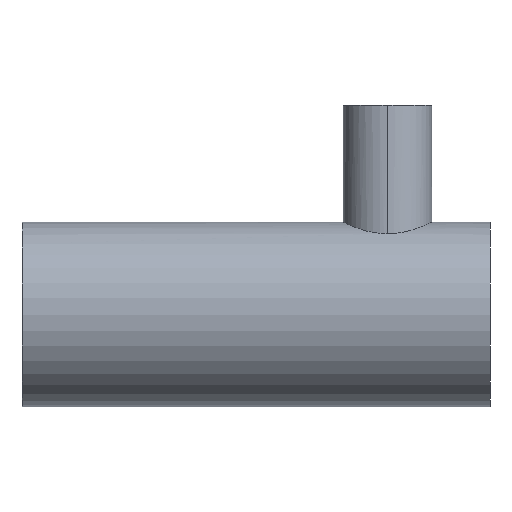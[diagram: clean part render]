
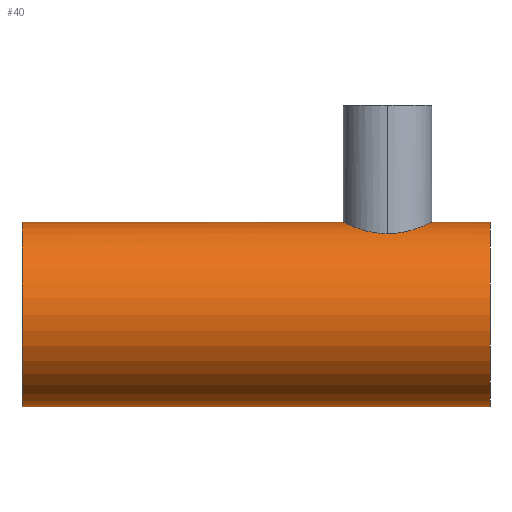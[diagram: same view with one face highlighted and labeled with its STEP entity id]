
A CAD part, left-side view. The second image highlights one B-rep face of the part: STEP entity #40.
In plain terms, the highlighted cylindrical face has radius 5.004 mm (diameter 10.008 mm), a partial arc.
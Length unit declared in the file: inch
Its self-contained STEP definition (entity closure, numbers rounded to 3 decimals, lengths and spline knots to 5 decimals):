
#1 = ORIENTED_EDGE ( 'NONE', *, *, #25, .F. ) ;
#2 = ORIENTED_EDGE ( 'NONE', *, *, #5, .T. ) ;
#3 = EDGE_CURVE ( 'NONE', #24, #51, #86, .T. ) ;
#4 = ORIENTED_EDGE ( 'NONE', *, *, #3, .F. ) ;
#5 = EDGE_CURVE ( 'NONE', #43, #48, #83, .T. ) ;
#7 = ORIENTED_EDGE ( 'NONE', *, *, #47, .F. ) ;
#9 = ORIENTED_EDGE ( 'NONE', *, *, #39, .T. ) ;
#24 = VERTEX_POINT ( 'NONE', #212 ) ;
#25 = EDGE_CURVE ( 'NONE', #255, #24, #206, .T. ) ;
#35 = EDGE_CURVE ( 'NONE', #87, #250, #178, .T. ) ;
#36 = ORIENTED_EDGE ( 'NONE', *, *, #35, .F. ) ;
#37 = ORIENTED_EDGE ( 'NONE', *, *, #52, .F. ) ;
#38 = EDGE_LOOP ( 'NONE', ( #37, #36, #9, #2, #7, #4, #1 ) ) ;
#39 = EDGE_CURVE ( 'NONE', #87, #43, #234, .T. ) ;
#40 = ADVANCED_FACE ( 'NONE', ( #230 ), #228, .T. ) ;
#43 = VERTEX_POINT ( 'NONE', #219 ) ;
#47 = EDGE_CURVE ( 'NONE', #51, #48, #140, .T. ) ;
#48 = VERTEX_POINT ( 'NONE', #136 ) ;
#51 = VERTEX_POINT ( 'NONE', #133 ) ;
#52 = EDGE_CURVE ( 'NONE', #250, #255, #135, .T. ) ;
#64 = CARTESIAN_POINT ( 'NONE',  ( 0., 0.124, 0.197 ) ) ;
#65 = CARTESIAN_POINT ( 'NONE',  ( -0.00632, 0.124, 0.197 ) ) ;
#66 = CARTESIAN_POINT ( 'NONE',  ( -0.01256, 0.12462, 0.1967 ) ) ;
#67 = CARTESIAN_POINT ( 'NONE',  ( -0.02489, 0.1271, 0.19552 ) ) ;
#68 = CARTESIAN_POINT ( 'NONE',  ( -0.03098, 0.12898, 0.19463 ) ) ;
#69 = CARTESIAN_POINT ( 'NONE',  ( -0.04241, 0.13377, 0.19247 ) ) ;
#70 = CARTESIAN_POINT ( 'NONE',  ( -0.04782, 0.13668, 0.19118 ) ) ;
#71 = CARTESIAN_POINT ( 'NONE',  ( -0.05809, 0.14358, 0.18832 ) ) ;
#72 = CARTESIAN_POINT ( 'NONE',  ( -0.06286, 0.14751, 0.18676 ) ) ;
#73 = CARTESIAN_POINT ( 'NONE',  ( -0.0758, 0.16045, 0.18206 ) ) ;
#74 = CARTESIAN_POINT ( 'NONE',  ( -0.08282, 0.17083, 0.17883 ) ) ;
#75 = CARTESIAN_POINT ( 'NONE',  ( -0.09001, 0.188, 0.17525 ) ) ;
#76 = CARTESIAN_POINT ( 'NONE',  ( -0.09189, 0.19408, 0.17426 ) ) ;
#77 = CARTESIAN_POINT ( 'NONE',  ( -0.09436, 0.20635, 0.17294 ) ) ;
#78 = CARTESIAN_POINT ( 'NONE',  ( -0.095, 0.21261, 0.17258 ) ) ;
#79 = CARTESIAN_POINT ( 'NONE',  ( -0.095, 0.219, 0.17258 ) ) ;
#80 = DIRECTION ( 'NONE',  ( 0., 0., 1. ) ) ;
#81 = DIRECTION ( 'NONE',  ( 0., 1., 0. ) ) ;
#82 = AXIS2_PLACEMENT_3D ( 'NONE', #85, #81, #80 ) ;
#83 = CIRCLE ( 'NONE', #82, 0.197 ) ;
#85 = CARTESIAN_POINT ( 'NONE',  ( 0., 0., 0. ) ) ;
#86 = B_SPLINE_CURVE_WITH_KNOTS ( 'NONE', 3,
 ( #79, #78, #77, #76, #75, #74, #73, #72, #71, #70, #69, #68, #67, #66, #65, #64 ),
 .UNSPECIFIED., .F., .F.,
 ( 4, 2, 2, 2, 2, 2, 2, 4 ),
 ( 0., 0.00048, 0.00096, 0.00192, 0.0024, 0.00288, 0.00335, 0.00383 ),
 .UNSPECIFIED. ) ;
#87 = VERTEX_POINT ( 'NONE', #129 ) ;
#92 = CARTESIAN_POINT ( 'NONE',  ( 0., 0.314, 0.197 ) ) ;
#108 = CARTESIAN_POINT ( 'NONE',  ( 0., 1., 0.197 ) ) ;
#129 = CARTESIAN_POINT ( 'NONE',  ( 0., 1., -0.197 ) ) ;
#130 = DIRECTION ( 'NONE',  ( 0., -1., 0. ) ) ;
#131 = VECTOR ( 'NONE', #130, 39.37008 ) ;
#132 = CARTESIAN_POINT ( 'NONE',  ( 0., 1., 0.197 ) ) ;
#133 = CARTESIAN_POINT ( 'NONE',  ( 0., 0.124, 0.197 ) ) ;
#135 = LINE ( 'NONE', #132, #131 ) ;
#136 = CARTESIAN_POINT ( 'NONE',  ( 0., 0., 0.197 ) ) ;
#137 = DIRECTION ( 'NONE',  ( 0., -1., 0. ) ) ;
#138 = VECTOR ( 'NONE', #137, 39.37008 ) ;
#139 = CARTESIAN_POINT ( 'NONE',  ( 0., 1., 0.197 ) ) ;
#140 = LINE ( 'NONE', #139, #138 ) ;
#178 = CIRCLE ( 'NONE', #238, 0.197 ) ;
#186 = CARTESIAN_POINT ( 'NONE',  ( -0.095, 0.219, 0.17258 ) ) ;
#187 = CARTESIAN_POINT ( 'NONE',  ( -0.095, 0.22537, 0.17258 ) ) ;
#188 = CARTESIAN_POINT ( 'NONE',  ( -0.09434, 0.23178, 0.17295 ) ) ;
#189 = CARTESIAN_POINT ( 'NONE',  ( -0.09185, 0.24404, 0.17428 ) ) ;
#190 = CARTESIAN_POINT ( 'NONE',  ( -0.09003, 0.24996, 0.17525 ) ) ;
#191 = CARTESIAN_POINT ( 'NONE',  ( -0.08524, 0.26139, 0.17762 ) ) ;
#192 = CARTESIAN_POINT ( 'NONE',  ( -0.08227, 0.2669, 0.17904 ) ) ;
#193 = CARTESIAN_POINT ( 'NONE',  ( -0.07545, 0.27704, 0.18202 ) ) ;
#194 = CARTESIAN_POINT ( 'NONE',  ( -0.07159, 0.28175, 0.18359 ) ) ;
#195 = CARTESIAN_POINT ( 'NONE',  ( -0.06289, 0.29047, 0.18675 ) ) ;
#196 = CARTESIAN_POINT ( 'NONE',  ( -0.05814, 0.29438, 0.1883 ) ) ;
#197 = CARTESIAN_POINT ( 'NONE',  ( -0.04796, 0.30123, 0.19115 ) ) ;
#198 = CARTESIAN_POINT ( 'NONE',  ( -0.04245, 0.30422, 0.19246 ) ) ;
#199 = CARTESIAN_POINT ( 'NONE',  ( -0.03096, 0.30903, 0.19464 ) ) ;
#200 = CARTESIAN_POINT ( 'NONE',  ( -0.025, 0.31087, 0.19551 ) ) ;
#201 = CARTESIAN_POINT ( 'NONE',  ( -0.01263, 0.31337, 0.19669 ) ) ;
#202 = CARTESIAN_POINT ( 'NONE',  ( -0.00628, 0.314, 0.197 ) ) ;
#205 = CARTESIAN_POINT ( 'NONE',  ( 0., 0.314, 0.197 ) ) ;
#206 = B_SPLINE_CURVE_WITH_KNOTS ( 'NONE', 3,
 ( #205, #202, #201, #200, #199, #198, #197, #196, #195, #194, #193, #192, #191, #190, #189, #188, #187, #186 ),
 .UNSPECIFIED., .F., .F.,
 ( 4, 2, 2, 2, 2, 2, 2, 2, 4 ),
 ( 0.01149, 0.01197, 0.01245, 0.01293, 0.01341, 0.01388, 0.01436, 0.01484, 0.01532 ),
 .UNSPECIFIED. ) ;
#212 = CARTESIAN_POINT ( 'NONE',  ( -0.095, 0.219, 0.17258 ) ) ;
#219 = CARTESIAN_POINT ( 'NONE',  ( 0., 0., -0.197 ) ) ;
#224 = DIRECTION ( 'NONE',  ( 0., 0., -1. ) ) ;
#225 = DIRECTION ( 'NONE',  ( 0., -1., 0. ) ) ;
#226 = CARTESIAN_POINT ( 'NONE',  ( 0., 1., 0. ) ) ;
#227 = AXIS2_PLACEMENT_3D ( 'NONE', #226, #225, #224 ) ;
#228 = CYLINDRICAL_SURFACE ( 'NONE', #227, 0.197 ) ;
#230 = FACE_OUTER_BOUND ( 'NONE', #38, .T. ) ;
#231 = DIRECTION ( 'NONE',  ( 0., -1., 0. ) ) ;
#232 = VECTOR ( 'NONE', #231, 39.37008 ) ;
#233 = CARTESIAN_POINT ( 'NONE',  ( 0., 1., -0.197 ) ) ;
#234 = LINE ( 'NONE', #233, #232 ) ;
#235 = DIRECTION ( 'NONE',  ( 0., 0., 1. ) ) ;
#236 = DIRECTION ( 'NONE',  ( 0., 1., 0. ) ) ;
#237 = CARTESIAN_POINT ( 'NONE',  ( 0., 1., 0. ) ) ;
#238 = AXIS2_PLACEMENT_3D ( 'NONE', #237, #236, #235 ) ;
#250 = VERTEX_POINT ( 'NONE', #108 ) ;
#255 = VERTEX_POINT ( 'NONE', #92 ) ;
